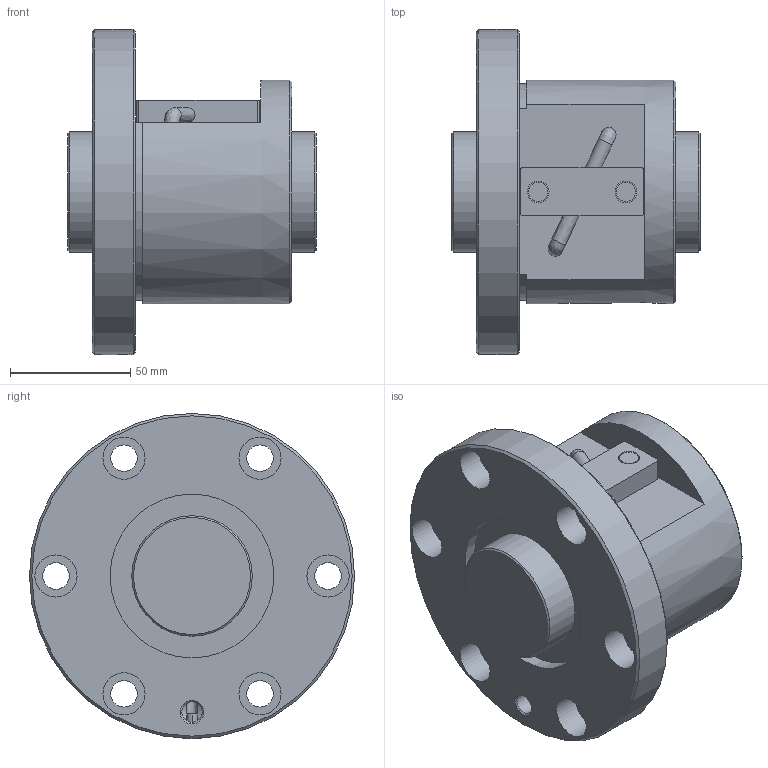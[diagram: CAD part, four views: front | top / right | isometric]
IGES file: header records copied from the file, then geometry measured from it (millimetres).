
Start section: Data from Parasolid IGES Translator 26.0.171, Copyright(c) 2006 Siemens PLM Software. All Rights Reserved.
Global section: file name: BNF5010V-3.5RRG1+103LC0_000_rev.igs; native system: By Siemens PLM Incorporated; preprocessor: XPlus GENERIC/IGES 26.0.171; author: Noname; organization: Noname; date: 20240806.090457; units: millimetre
Bounding box: 103 x 135 x 135 mm (x, y, z)
Surface area: 93136.2 mm2 (no closed solid volume)
Topology: 0 solids, 0 shells, 72 faces, 334 edges, 292 vertices
Faces by surface type: revolution 45, extrusion 27
